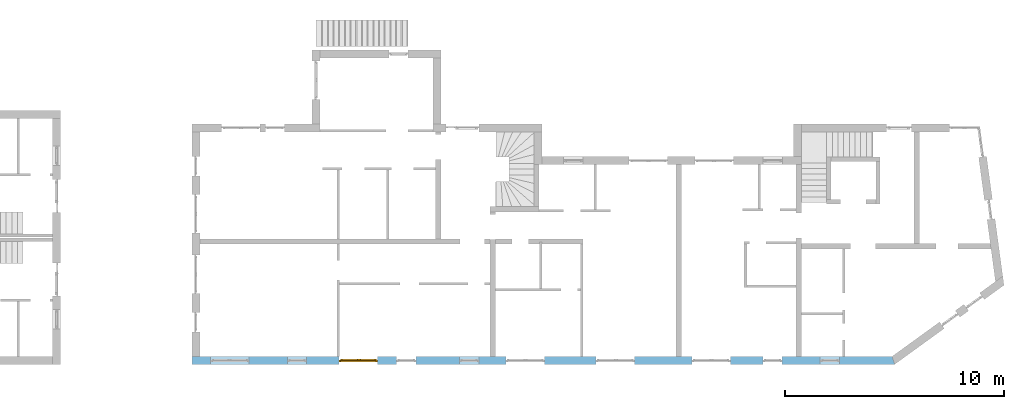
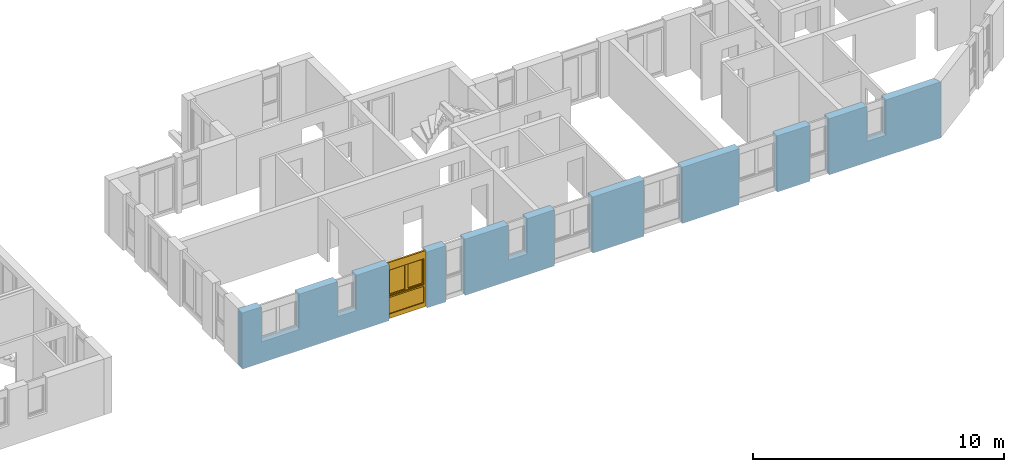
# One storey, part 29 of 41: 1 window, 10 openings, plus 1 element that does not belong to this part.
"""IFC2X3 building model written with IfcOpenShell, lengths in millimetres."""

from ifc_helpers import new_model, entity, si_unit, converted_unit, frame, frame_2d, origin, origin_with_axes, place, context, subcontext, project, spatial, polyline, rectangle, outline, extrude, faceted_brep, material, layer, layer_set, layer_usage, type_object, element, fill, save


model = new_model("IFC2X3")

# Units and contexts
model_context = context("Model", 3, precision=1e-05, world=origin())
body_context = subcontext(model_context, "Body", "Model", "MODEL_VIEW")
ifc_project = project(units=[si_unit("LENGTHUNIT", "METRE", prefix="MILLI"), converted_unit("PLANEANGLEUNIT", "DEGREE", entity("IfcPlaneAngleMeasure", 0.0174532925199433), si_unit("PLANEANGLEUNIT", "RADIAN"), dimensions=[0, 0, 0, 0, 0, 0, 0]), si_unit("AREAUNIT", "SQUARE_METRE"), si_unit("VOLUMEUNIT", "CUBIC_METRE")], contexts=[model_context])

# Building, storey
building_placement = place(None, origin())
building = spatial("IfcBuilding", under=ifc_project, at=building_placement, Name="Gebäude", CompositionType="ELEMENT")
storey_placement = place(building_placement, frame((0.0, 0.0, -200.0), z_axis=(0.0, 0.0, 1.0), x_axis=(1.0, 0.0, 0.0)))
storey = spatial("IfcBuildingStorey", under=building, at=storey_placement, Name="EG.- Grundriss", CompositionType="ELEMENT", Elevation=-200.0)

# Wall, openings, window
ifc_material_1 = material(Name="Poroton")
ifc_layer = layer(ifc_material_1, 365.0000000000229)
ifc_layer_set = layer_set([ifc_layer])
ifc_layer_usage = layer_usage(ifc_layer_set, "AXIS2", "POSITIVE", 0.0)
wall_placement = place(storey_placement, frame((148357.7928067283, 125274.8877324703, 0.0), z_axis=(0.0, 0.0, 1.0), x_axis=(1.0, -2.749268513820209e-11, 0.0)))
wall = element("IfcWallStandardCase", 1, at=wall_placement, inside=storey, material=ifc_layer_usage, Name="<Unnamed Element>", context=body_context, shape_type="SweptSolid", body=[
    extrude(outline(polyline([(0.0, 0.0), (32144.99999877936, 0.0), (32026.74038666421, 365.0000000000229), (-1.003483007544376e-08, 365.0), (0.0, 0.0)])), origin_with_axes(), (0.0, 0.0, 1.0), 2730.0),
])
opening_1_placement = place(wall_placement, frame((28740.29648749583, -1.103025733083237e-10, 1020.0), z_axis=(0.0, 1.0, 0.0), x_axis=(0.0, 0.0, 1.0)))
element("IfcOpeningElement", 2, at=opening_1_placement, cuts=wall, Name="Fensteröffnung", ObjectType="Opening", context=body_context, shape_type="SweptSolid", body=[
    extrude(rectangle(XDim=1710.0, YDim=885.0, at=frame_2d((855.0, 442.5), x_axis=(1.0, 0.0))), origin_with_axes(), (0.0, 0.0, 1.0), 365.0000000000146),
])
opening_2_placement = place(wall_placement, frame((26115.29648749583, -1.048456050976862e-10, 0.0), z_axis=(0.0, 1.0, 0.0), x_axis=(0.0, 0.0, 1.0)))
element("IfcOpeningElement", 3, at=opening_2_placement, cuts=wall, Name="Fensteröffnung", ObjectType="Opening", context=body_context, shape_type="SweptSolid", body=[
    extrude(rectangle(XDim=2730.0, YDim=885.0, at=frame_2d((1365.0, 442.5), x_axis=(1.0, 0.0))), origin_with_axes(), (0.0, 0.0, 1.0), 365.0000000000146),
])
opening_3_placement = place(wall_placement, frame((22865.29648749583, -7.937975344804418e-11, 0.0), z_axis=(0.0, 1.0, 0.0), x_axis=(0.0, 0.0, 1.0)))
element("IfcOpeningElement", 4, at=opening_3_placement, cuts=wall, Name="Fensteröffnung", ObjectType="Opening", context=body_context, shape_type="SweptSolid", body=[
    extrude(rectangle(XDim=2730.0, YDim=1760.0, at=frame_2d((1365.0, 880.0), x_axis=(1.0, 0.0))), origin_with_axes(), (0.0, 0.0, 1.0), 365.0000000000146),
])
opening_4_placement = place(wall_placement, frame((18490.51063065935, -4.984640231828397e-11, 0.0), z_axis=(0.0, 1.0, 0.0), x_axis=(0.0, 0.0, 1.0)))
element("IfcOpeningElement", 5, at=opening_4_placement, cuts=wall, Name="Fensteröffnung", ObjectType="Opening", context=body_context, shape_type="SweptSolid", body=[
    extrude(rectangle(XDim=2730.0, YDim=1760.0, at=frame_2d((1365.0, 880.0), x_axis=(1.0, 0.0))), origin_with_axes(), (0.0, 0.0, 1.0), 365.0000000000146),
])
opening_5_placement = place(wall_placement, frame((14365.26291871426, -7.302655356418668e-11, 0.0), z_axis=(0.0, 1.0, 0.0), x_axis=(0.0, 0.0, 1.0)))
element("IfcOpeningElement", 6, at=opening_5_placement, cuts=wall, Name="Fensteröffnung", ObjectType="Opening", context=body_context, shape_type="SweptSolid", body=[
    extrude(rectangle(XDim=2730.0, YDim=1760.0, at=frame_2d((1365.0, 880.0), x_axis=(1.0, 0.0))), origin_with_axes(), (0.0, 0.0, 1.0), 365.0000000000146),
])
opening_6_placement = place(wall_placement, frame((12240.0, -5.296897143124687e-11, 1020.0), z_axis=(0.0, 1.0, 0.0), x_axis=(0.0, 0.0, 1.0)))
element("IfcOpeningElement", 7, at=opening_6_placement, cuts=wall, Name="Fensteröffnung", ObjectType="Opening", context=body_context, shape_type="SweptSolid", body=[
    extrude(rectangle(XDim=1710.0, YDim=885.0, at=frame_2d((855.0, 442.5), x_axis=(1.0, 0.0))), origin_with_axes(), (0.0, 0.0, 1.0), 365.0000000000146),
])
opening_7_placement = place(wall_placement, frame((9365.0, -3.659806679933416e-11, 0.0), z_axis=(0.0, 1.0, 0.0), x_axis=(0.0, 0.0, 1.0)))
element("IfcOpeningElement", 8, at=opening_7_placement, cuts=wall, Name="Fensteröffnung", ObjectType="Opening", context=body_context, shape_type="SweptSolid", body=[
    extrude(rectangle(XDim=2730.0, YDim=885.0, at=frame_2d((1365.0, 442.5), x_axis=(1.0, 0.0))), origin_with_axes(), (0.0, 0.0, 1.0), 365.0000000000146),
])
opening_8_placement = place(wall_placement, frame((6740.0, -3.114109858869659e-11, 0.0), z_axis=(0.0, 1.0, 0.0), x_axis=(0.0, 0.0, 1.0)))
opening_8 = element("IfcOpeningElement", 9, at=opening_8_placement, cuts=wall, Name="Fensteröffnung", ObjectType="Opening", context=body_context, shape_type="SweptSolid", body=[
    extrude(rectangle(XDim=2730.0, YDim=1760.0, at=frame_2d((1365.0, 880.0), x_axis=(1.0, 0.0))), origin_with_axes(), (0.0, 0.0, 1.0), 365.0000000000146),
])
opening_9_placement = place(wall_placement, frame((4365.0, -7.494236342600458e-12, 1020.0), z_axis=(0.0, 1.0, 0.0), x_axis=(0.0, 0.0, 1.0)))
element("IfcOpeningElement", 10, at=opening_9_placement, cuts=wall, Name="Fensteröffnung", ObjectType="Opening", context=body_context, shape_type="SweptSolid", body=[
    extrude(rectangle(XDim=1710.0, YDim=885.0, at=frame_2d((855.0, 442.5), x_axis=(1.0, 0.0))), origin_with_axes(), (0.0, 0.0, 1.0), 365.0000000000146),
])
opening_10_placement = place(wall_placement, frame((865.0, -2.182787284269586e-13, 1020.0), z_axis=(0.0, 1.0, 0.0), x_axis=(0.0, 0.0, 1.0)))
element("IfcOpeningElement", 11, at=opening_10_placement, cuts=wall, Name="Fensteröffnung", ObjectType="Opening", context=body_context, shape_type="SweptSolid", body=[
    extrude(rectangle(XDim=1710.0, YDim=1760.0, at=frame_2d((854.9999999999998, 880.0), x_axis=(1.0, 0.0))), origin_with_axes(), (0.0, 0.0, 1.0), 365.0000000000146),
])
ifc_material_2 = material()
window_style = type_object("IfcWindowStyle", Name="Fenster", ConstructionType="NOTDEFINED", OperationType="USERDEFINED", ParameterTakesPrecedence=False, Sizeable=False)
window_placement = place(opening_8_placement, frame((0.0, 0.0, 0.0), z_axis=(1.0, 0.0, 0.0), x_axis=(0.0, 1.0, 0.0)))
window = element("IfcWindow", 12, at=window_placement, inside=storey, type_object=window_style, material=ifc_material_2, Name="Fenster", OverallHeight=2730.0, OverallWidth=1760.0, context=body_context, shape_type="Brep", body=[
    faceted_brep([(-1.221113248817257e-08, 199.999999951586, 2730.0), (-1.221113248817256e-08, 199.9999999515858, -2.449293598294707e-15), (69.99999998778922, 199.9999999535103, -2.449293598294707e-15), (69.99999998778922, 199.9999999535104, 2730.0), (-1.001171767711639e-08, 119.9999999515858, 2.449293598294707e-15), (-1.00117176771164e-08, 119.999999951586, 2730.0), (69.99999998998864, 119.9999999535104, 2730.0), (69.99999998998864, 119.9999999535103, 2.449293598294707e-15), (-1.221113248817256e-08, 199.9999999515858, -2.449293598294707e-15), (-1.221113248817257e-08, 199.999999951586, 2730.0), (-1.00117176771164e-08, 119.999999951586, 2730.0), (-1.001171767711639e-08, 119.9999999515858, 2.449293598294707e-15), (69.99999998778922, 199.9999999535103, -2.449293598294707e-15), (-1.221113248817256e-08, 199.9999999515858, -2.449293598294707e-15), (-1.001171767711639e-08, 119.9999999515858, 2.449293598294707e-15), (69.99999998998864, 119.9999999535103, 2.449293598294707e-15), (69.99999998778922, 199.9999999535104, 2730.0), (69.99999998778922, 199.9999999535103, -2.449293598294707e-15), (69.99999998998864, 119.9999999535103, 2.449293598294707e-15), (69.99999998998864, 119.9999999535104, 2730.0), (-1.221113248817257e-08, 199.999999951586, 2730.0), (69.99999998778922, 199.9999999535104, 2730.0), (69.99999998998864, 119.9999999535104, 2730.0), (-1.00117176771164e-08, 119.999999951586, 2730.0)], [[[0, 1, 2, 3]], [[4, 5, 6, 7]], [[8, 9, 10, 11]], [[12, 13, 14, 15]], [[16, 17, 18, 19]], [[20, 21, 22, 23]]], orient=[[False], [False], [False], [False], [False], [False]]),
    faceted_brep([(1689.999999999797, 199.9999999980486, 2730.0), (1689.999999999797, 199.9999999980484, -2.449293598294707e-15), (1759.999999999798, 199.9999999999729, -2.449293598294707e-15), (1759.999999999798, 199.9999999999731, 2730.0), (1690.000000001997, 119.9999999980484, 2.449293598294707e-15), (1690.000000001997, 119.9999999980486, 2730.0), (1760.000000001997, 119.9999999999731, 2730.0), (1760.000000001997, 119.9999999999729, 2.449293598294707e-15), (1689.999999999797, 199.9999999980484, -2.449293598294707e-15), (1689.999999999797, 199.9999999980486, 2730.0), (1690.000000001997, 119.9999999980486, 2730.0), (1690.000000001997, 119.9999999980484, 2.449293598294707e-15), (1759.999999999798, 199.9999999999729, -2.449293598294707e-15), (1689.999999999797, 199.9999999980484, -2.449293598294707e-15), (1690.000000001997, 119.9999999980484, 2.449293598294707e-15), (1760.000000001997, 119.9999999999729, 2.449293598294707e-15), (1759.999999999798, 199.9999999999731, 2730.0), (1759.999999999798, 199.9999999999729, -2.449293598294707e-15), (1760.000000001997, 119.9999999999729, 2.449293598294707e-15), (1760.000000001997, 119.9999999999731, 2730.0), (1689.999999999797, 199.9999999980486, 2730.0), (1759.999999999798, 199.9999999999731, 2730.0), (1760.000000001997, 119.9999999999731, 2730.0), (1690.000000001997, 119.9999999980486, 2730.0)], [[[0, 1, 2, 3]], [[4, 5, 6, 7]], [[8, 9, 10, 11]], [[12, 13, 14, 15]], [[16, 17, 18, 19]], [[20, 21, 22, 23]]], orient=[[False], [False], [False], [False], [False], [False]]),
    faceted_brep([(69.99999998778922, 199.9999999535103, 220.0), (69.99999998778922, 199.9999999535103, -2.449293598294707e-15), (1689.999999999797, 199.9999999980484, -2.449293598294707e-15), (1689.999999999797, 199.9999999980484, 220.0), (69.99999998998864, 119.9999999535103, 2.449293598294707e-15), (69.99999998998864, 119.9999999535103, 220.0), (1690.000000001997, 119.9999999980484, 220.0), (1690.000000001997, 119.9999999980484, 2.449293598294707e-15), (69.99999998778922, 199.9999999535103, -2.449293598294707e-15), (69.99999998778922, 199.9999999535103, 220.0), (69.99999998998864, 119.9999999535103, 220.0), (69.99999998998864, 119.9999999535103, 2.449293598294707e-15), (1689.999999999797, 199.9999999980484, -2.449293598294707e-15), (69.99999998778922, 199.9999999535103, -2.449293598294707e-15), (69.99999998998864, 119.9999999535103, 2.449293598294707e-15), (1690.000000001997, 119.9999999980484, 2.449293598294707e-15), (1689.999999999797, 199.9999999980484, 220.0), (1689.999999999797, 199.9999999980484, -2.449293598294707e-15), (1690.000000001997, 119.9999999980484, 2.449293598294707e-15), (1690.000000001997, 119.9999999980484, 220.0), (69.99999998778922, 199.9999999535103, 220.0), (1689.999999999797, 199.9999999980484, 220.0), (1690.000000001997, 119.9999999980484, 220.0), (69.99999998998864, 119.9999999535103, 220.0)], [[[0, 1, 2, 3]], [[4, 5, 6, 7]], [[8, 9, 10, 11]], [[12, 13, 14, 15]], [[16, 17, 18, 19]], [[20, 21, 22, 23]]], orient=[[False], [False], [False], [False], [False], [False]]),
    faceted_brep([(69.99999998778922, 199.9999999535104, 2730.0), (69.99999998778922, 199.9999999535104, 2360.0), (1689.999999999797, 199.9999999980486, 2360.0), (1689.999999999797, 199.9999999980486, 2730.0), (69.99999998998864, 119.9999999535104, 2360.0), (69.99999998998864, 119.9999999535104, 2730.0), (1690.000000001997, 119.9999999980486, 2730.0), (1690.000000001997, 119.9999999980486, 2360.0), (69.99999998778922, 199.9999999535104, 2360.0), (69.99999998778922, 199.9999999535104, 2730.0), (69.99999998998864, 119.9999999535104, 2730.0), (69.99999998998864, 119.9999999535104, 2360.0), (1689.999999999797, 199.9999999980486, 2360.0), (69.99999998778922, 199.9999999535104, 2360.0), (69.99999998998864, 119.9999999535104, 2360.0), (1690.000000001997, 119.9999999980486, 2360.0), (1689.999999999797, 199.9999999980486, 2730.0), (1689.999999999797, 199.9999999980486, 2360.0), (1690.000000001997, 119.9999999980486, 2360.0), (1690.000000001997, 119.9999999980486, 2730.0), (69.99999998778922, 199.9999999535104, 2730.0), (1689.999999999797, 199.9999999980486, 2730.0), (1690.000000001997, 119.9999999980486, 2730.0), (69.99999998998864, 119.9999999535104, 2730.0)], [[[0, 1, 2, 3]], [[4, 5, 6, 7]], [[8, 9, 10, 11]], [[12, 13, 14, 15]], [[16, 17, 18, 19]], [[20, 21, 22, 23]]], orient=[[False], [False], [False], [False], [False], [False]]),
    faceted_brep([(69.99999998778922, 199.9999999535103, 1090.0), (69.99999998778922, 199.9999999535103, 1020.0), (1689.999999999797, 199.9999999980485, 1020.0), (1689.999999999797, 199.9999999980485, 1090.0), (69.99999998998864, 119.9999999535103, 1020.0), (69.99999998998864, 119.9999999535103, 1090.0), (1690.000000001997, 119.9999999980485, 1090.0), (1690.000000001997, 119.9999999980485, 1020.0), (69.99999998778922, 199.9999999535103, 1020.0), (69.99999998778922, 199.9999999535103, 1090.0), (69.99999998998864, 119.9999999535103, 1090.0), (69.99999998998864, 119.9999999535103, 1020.0), (1689.999999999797, 199.9999999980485, 1020.0), (69.99999998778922, 199.9999999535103, 1020.0), (69.99999998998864, 119.9999999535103, 1020.0), (1690.000000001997, 119.9999999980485, 1020.0), (1689.999999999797, 199.9999999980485, 1090.0), (1689.999999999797, 199.9999999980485, 1020.0), (1690.000000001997, 119.9999999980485, 1020.0), (1690.000000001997, 119.9999999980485, 1090.0), (69.99999998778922, 199.9999999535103, 1090.0), (1689.999999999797, 199.9999999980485, 1090.0), (1690.000000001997, 119.9999999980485, 1090.0), (69.99999998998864, 119.9999999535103, 1090.0)], [[[0, 1, 2, 3]], [[4, 5, 6, 7]], [[8, 9, 10, 11]], [[12, 13, 14, 15]], [[16, 17, 18, 19]], [[20, 21, 22, 23]]], orient=[[False], [False], [False], [False], [False], [False]]),
    faceted_brep([(69.99999998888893, 159.9999999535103, 220.0), (1690.000000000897, 159.9999999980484, 220.0), (1690.000000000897, 159.9999999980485, 1020.0), (69.99999998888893, 159.9999999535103, 1020.0), (69.99999998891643, 158.9999999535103, 220.0), (69.99999998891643, 158.9999999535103, 1020.0), (1690.000000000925, 158.9999999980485, 1020.0), (1690.000000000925, 158.9999999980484, 220.0), (69.99999998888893, 159.9999999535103, 220.0), (69.99999998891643, 158.9999999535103, 220.0), (1690.000000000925, 158.9999999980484, 220.0), (1690.000000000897, 159.9999999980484, 220.0), (1690.000000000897, 159.9999999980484, 220.0), (1690.000000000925, 158.9999999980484, 220.0), (1690.000000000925, 158.9999999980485, 1020.0), (1690.000000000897, 159.9999999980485, 1020.0), (1690.000000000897, 159.9999999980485, 1020.0), (1690.000000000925, 158.9999999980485, 1020.0), (69.99999998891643, 158.9999999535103, 1020.0), (69.99999998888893, 159.9999999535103, 1020.0), (69.99999998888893, 159.9999999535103, 1020.0), (69.99999998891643, 158.9999999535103, 1020.0), (69.99999998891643, 158.9999999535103, 220.0), (69.99999998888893, 159.9999999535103, 220.0)], [[[0, 1, 2, 3]], [[4, 5, 6, 7]], [[8, 9, 10, 11]], [[12, 13, 14, 15]], [[16, 17, 18, 19]], [[20, 21, 22, 23]]], orient=[[False], [False], [False], [False], [False], [False]]),
    faceted_brep([(49.99999998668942, 239.9999999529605, 2380.0), (49.99999998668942, 239.9999999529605, 1070.0), (119.9999999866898, 239.999999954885, 1070.0), (119.9999999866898, 239.999999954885, 2380.0), (49.9999999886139, 169.9999999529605, 1070.0), (49.9999999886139, 169.9999999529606, 2380.0), (119.9999999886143, 169.999999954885, 2380.0), (119.9999999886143, 169.999999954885, 1070.0), (49.99999998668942, 239.9999999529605, 1070.0), (49.99999998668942, 239.9999999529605, 2380.0), (49.9999999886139, 169.9999999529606, 2380.0), (49.9999999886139, 169.9999999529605, 1070.0), (119.9999999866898, 239.999999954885, 1070.0), (49.99999998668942, 239.9999999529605, 1070.0), (49.9999999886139, 169.9999999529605, 1070.0), (119.9999999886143, 169.999999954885, 1070.0), (119.9999999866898, 239.999999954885, 2380.0), (119.9999999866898, 239.999999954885, 1070.0), (119.9999999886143, 169.999999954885, 1070.0), (119.9999999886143, 169.999999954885, 2380.0), (49.99999998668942, 239.9999999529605, 2380.0), (119.9999999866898, 239.999999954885, 2380.0), (119.9999999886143, 169.999999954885, 2380.0), (49.9999999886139, 169.9999999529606, 2380.0)], [[[0, 1, 2, 3]], [[4, 5, 6, 7]], [[8, 9, 10, 11]], [[12, 13, 14, 15]], [[16, 17, 18, 19]], [[20, 21, 22, 23]]], orient=[[False], [False], [False], [False], [False], [False]]),
    faceted_brep([(829.4999999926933, 239.9999999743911, 2380.0), (829.4999999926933, 239.999999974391, 1070.0), (899.4999999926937, 239.9999999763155, 1070.0), (899.4999999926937, 239.9999999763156, 2380.0), (829.4999999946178, 169.999999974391, 1070.0), (829.4999999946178, 169.9999999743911, 2380.0), (899.4999999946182, 169.9999999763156, 2380.0), (899.4999999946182, 169.9999999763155, 1070.0), (829.4999999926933, 239.999999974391, 1070.0), (829.4999999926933, 239.9999999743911, 2380.0), (829.4999999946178, 169.9999999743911, 2380.0), (829.4999999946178, 169.999999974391, 1070.0), (899.4999999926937, 239.9999999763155, 1070.0), (829.4999999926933, 239.999999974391, 1070.0), (829.4999999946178, 169.999999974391, 1070.0), (899.4999999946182, 169.9999999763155, 1070.0), (899.4999999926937, 239.9999999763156, 2380.0), (899.4999999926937, 239.9999999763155, 1070.0), (899.4999999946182, 169.9999999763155, 1070.0), (899.4999999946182, 169.9999999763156, 2380.0), (829.4999999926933, 239.9999999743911, 2380.0), (899.4999999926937, 239.9999999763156, 2380.0), (899.4999999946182, 169.9999999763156, 2380.0), (829.4999999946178, 169.9999999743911, 2380.0)], [[[0, 1, 2, 3]], [[4, 5, 6, 7]], [[8, 9, 10, 11]], [[12, 13, 14, 15]], [[16, 17, 18, 19]], [[20, 21, 22, 23]]], orient=[[False], [False], [False], [False], [False], [False]]),
    faceted_brep([(119.9999999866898, 239.999999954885, 1140.0), (119.9999999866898, 239.999999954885, 1070.0), (829.4999999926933, 239.999999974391, 1070.0), (829.4999999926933, 239.999999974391, 1140.0), (119.9999999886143, 169.999999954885, 1070.0), (119.9999999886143, 169.999999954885, 1140.0), (829.4999999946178, 169.999999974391, 1140.0), (829.4999999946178, 169.999999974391, 1070.0), (119.9999999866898, 239.999999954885, 1070.0), (119.9999999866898, 239.999999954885, 1140.0), (119.9999999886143, 169.999999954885, 1140.0), (119.9999999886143, 169.999999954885, 1070.0), (829.4999999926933, 239.999999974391, 1070.0), (119.9999999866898, 239.999999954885, 1070.0), (119.9999999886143, 169.999999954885, 1070.0), (829.4999999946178, 169.999999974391, 1070.0), (829.4999999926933, 239.999999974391, 1140.0), (829.4999999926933, 239.999999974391, 1070.0), (829.4999999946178, 169.999999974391, 1070.0), (829.4999999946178, 169.999999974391, 1140.0), (119.9999999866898, 239.999999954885, 1140.0), (829.4999999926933, 239.999999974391, 1140.0), (829.4999999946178, 169.999999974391, 1140.0), (119.9999999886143, 169.999999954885, 1140.0)], [[[0, 1, 2, 3]], [[4, 5, 6, 7]], [[8, 9, 10, 11]], [[12, 13, 14, 15]], [[16, 17, 18, 19]], [[20, 21, 22, 23]]], orient=[[False], [False], [False], [False], [False], [False]]),
    faceted_brep([(119.9999999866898, 239.999999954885, 2380.0), (119.9999999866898, 239.999999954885, 2310.0), (829.4999999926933, 239.9999999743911, 2310.0), (829.4999999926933, 239.9999999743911, 2380.0), (119.9999999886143, 169.999999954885, 2310.0), (119.9999999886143, 169.999999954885, 2380.0), (829.4999999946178, 169.9999999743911, 2380.0), (829.4999999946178, 169.9999999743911, 2310.0), (119.9999999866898, 239.999999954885, 2310.0), (119.9999999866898, 239.999999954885, 2380.0), (119.9999999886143, 169.999999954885, 2380.0), (119.9999999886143, 169.999999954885, 2310.0), (829.4999999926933, 239.9999999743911, 2310.0), (119.9999999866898, 239.999999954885, 2310.0), (119.9999999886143, 169.999999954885, 2310.0), (829.4999999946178, 169.9999999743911, 2310.0), (829.4999999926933, 239.9999999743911, 2380.0), (829.4999999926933, 239.9999999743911, 2310.0), (829.4999999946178, 169.9999999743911, 2310.0), (829.4999999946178, 169.9999999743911, 2380.0), (119.9999999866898, 239.999999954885, 2380.0), (829.4999999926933, 239.9999999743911, 2380.0), (829.4999999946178, 169.9999999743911, 2380.0), (119.9999999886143, 169.999999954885, 2380.0)], [[[0, 1, 2, 3]], [[4, 5, 6, 7]], [[8, 9, 10, 11]], [[12, 13, 14, 15]], [[16, 17, 18, 19]], [[20, 21, 22, 23]]], orient=[[False], [False], [False], [False], [False], [False]]),
    faceted_brep([(900.4999999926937, 239.9999999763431, 2380.0), (900.4999999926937, 239.999999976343, 1070.0), (970.4999999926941, 239.9999999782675, 1070.0), (970.4999999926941, 239.9999999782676, 2380.0), (900.4999999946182, 169.999999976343, 1070.0), (900.4999999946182, 169.9999999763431, 2380.0), (970.4999999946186, 169.9999999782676, 2380.0), (970.4999999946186, 169.9999999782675, 1070.0), (900.4999999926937, 239.999999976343, 1070.0), (900.4999999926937, 239.9999999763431, 2380.0), (900.4999999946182, 169.9999999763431, 2380.0), (900.4999999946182, 169.999999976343, 1070.0), (970.4999999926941, 239.9999999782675, 1070.0), (900.4999999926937, 239.999999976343, 1070.0), (900.4999999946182, 169.999999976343, 1070.0), (970.4999999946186, 169.9999999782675, 1070.0), (970.4999999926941, 239.9999999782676, 2380.0), (970.4999999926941, 239.9999999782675, 1070.0), (970.4999999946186, 169.9999999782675, 1070.0), (970.4999999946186, 169.9999999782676, 2380.0), (900.4999999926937, 239.9999999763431, 2380.0), (970.4999999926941, 239.9999999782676, 2380.0), (970.4999999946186, 169.9999999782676, 2380.0), (900.4999999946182, 169.9999999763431, 2380.0)], [[[0, 1, 2, 3]], [[4, 5, 6, 7]], [[8, 9, 10, 11]], [[12, 13, 14, 15]], [[16, 17, 18, 19]], [[20, 21, 22, 23]]], orient=[[False], [False], [False], [False], [False], [False]]),
    faceted_brep([(1639.999999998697, 239.9999999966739, 2380.0), (1639.999999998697, 239.9999999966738, 1070.0), (1709.999999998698, 239.9999999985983, 1070.0), (1709.999999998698, 239.9999999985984, 2380.0), (1640.000000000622, 169.9999999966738, 1070.0), (1640.000000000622, 169.9999999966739, 2380.0), (1710.000000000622, 169.9999999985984, 2380.0), (1710.000000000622, 169.9999999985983, 1070.0), (1639.999999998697, 239.9999999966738, 1070.0), (1639.999999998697, 239.9999999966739, 2380.0), (1640.000000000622, 169.9999999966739, 2380.0), (1640.000000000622, 169.9999999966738, 1070.0), (1709.999999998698, 239.9999999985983, 1070.0), (1639.999999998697, 239.9999999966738, 1070.0), (1640.000000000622, 169.9999999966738, 1070.0), (1710.000000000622, 169.9999999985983, 1070.0), (1709.999999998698, 239.9999999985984, 2380.0), (1709.999999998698, 239.9999999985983, 1070.0), (1710.000000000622, 169.9999999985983, 1070.0), (1710.000000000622, 169.9999999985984, 2380.0), (1639.999999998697, 239.9999999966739, 2380.0), (1709.999999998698, 239.9999999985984, 2380.0), (1710.000000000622, 169.9999999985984, 2380.0), (1640.000000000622, 169.9999999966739, 2380.0)], [[[0, 1, 2, 3]], [[4, 5, 6, 7]], [[8, 9, 10, 11]], [[12, 13, 14, 15]], [[16, 17, 18, 19]], [[20, 21, 22, 23]]], orient=[[False], [False], [False], [False], [False], [False]]),
    faceted_brep([(970.4999999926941, 239.9999999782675, 1140.0), (970.4999999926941, 239.9999999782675, 1070.0), (1639.999999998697, 239.9999999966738, 1070.0), (1639.999999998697, 239.9999999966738, 1140.0), (970.4999999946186, 169.9999999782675, 1070.0), (970.4999999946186, 169.9999999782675, 1140.0), (1640.000000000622, 169.9999999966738, 1140.0), (1640.000000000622, 169.9999999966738, 1070.0), (970.4999999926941, 239.9999999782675, 1070.0), (970.4999999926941, 239.9999999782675, 1140.0), (970.4999999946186, 169.9999999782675, 1140.0), (970.4999999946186, 169.9999999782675, 1070.0), (1639.999999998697, 239.9999999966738, 1070.0), (970.4999999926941, 239.9999999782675, 1070.0), (970.4999999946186, 169.9999999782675, 1070.0), (1640.000000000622, 169.9999999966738, 1070.0), (1639.999999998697, 239.9999999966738, 1140.0), (1639.999999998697, 239.9999999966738, 1070.0), (1640.000000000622, 169.9999999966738, 1070.0), (1640.000000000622, 169.9999999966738, 1140.0), (970.4999999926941, 239.9999999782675, 1140.0), (1639.999999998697, 239.9999999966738, 1140.0), (1640.000000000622, 169.9999999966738, 1140.0), (970.4999999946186, 169.9999999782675, 1140.0)], [[[0, 1, 2, 3]], [[4, 5, 6, 7]], [[8, 9, 10, 11]], [[12, 13, 14, 15]], [[16, 17, 18, 19]], [[20, 21, 22, 23]]], orient=[[False], [False], [False], [False], [False], [False]]),
    faceted_brep([(970.4999999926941, 239.9999999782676, 2380.0), (970.4999999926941, 239.9999999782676, 2310.0), (1639.999999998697, 239.9999999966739, 2310.0), (1639.999999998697, 239.9999999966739, 2380.0), (970.4999999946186, 169.9999999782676, 2310.0), (970.4999999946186, 169.9999999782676, 2380.0), (1640.000000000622, 169.9999999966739, 2380.0), (1640.000000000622, 169.9999999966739, 2310.0), (970.4999999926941, 239.9999999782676, 2310.0), (970.4999999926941, 239.9999999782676, 2380.0), (970.4999999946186, 169.9999999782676, 2380.0), (970.4999999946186, 169.9999999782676, 2310.0), (1639.999999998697, 239.9999999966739, 2310.0), (970.4999999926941, 239.9999999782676, 2310.0), (970.4999999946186, 169.9999999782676, 2310.0), (1640.000000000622, 169.9999999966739, 2310.0), (1639.999999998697, 239.9999999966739, 2380.0), (1639.999999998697, 239.9999999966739, 2310.0), (1640.000000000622, 169.9999999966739, 2310.0), (1640.000000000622, 169.9999999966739, 2380.0), (970.4999999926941, 239.9999999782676, 2380.0), (1639.999999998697, 239.9999999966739, 2380.0), (1640.000000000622, 169.9999999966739, 2380.0), (970.4999999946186, 169.9999999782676, 2380.0)], [[[0, 1, 2, 3]], [[4, 5, 6, 7]], [[8, 9, 10, 11]], [[12, 13, 14, 15]], [[16, 17, 18, 19]], [[20, 21, 22, 23]]], orient=[[False], [False], [False], [False], [False], [False]]),
    faceted_brep([(119.999999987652, 204.999999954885, 1140.0), (829.4999999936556, 204.9999999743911, 1140.0), (829.4999999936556, 204.9999999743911, 2310.0), (119.999999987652, 204.9999999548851, 2310.0), (119.9999999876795, 203.999999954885, 1140.0), (119.9999999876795, 203.9999999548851, 2310.0), (829.4999999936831, 203.9999999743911, 2310.0), (829.4999999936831, 203.9999999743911, 1140.0), (119.999999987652, 204.999999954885, 1140.0), (119.9999999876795, 203.999999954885, 1140.0), (829.4999999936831, 203.9999999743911, 1140.0), (829.4999999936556, 204.9999999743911, 1140.0), (829.4999999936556, 204.9999999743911, 1140.0), (829.4999999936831, 203.9999999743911, 1140.0), (829.4999999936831, 203.9999999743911, 2310.0), (829.4999999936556, 204.9999999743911, 2310.0), (829.4999999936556, 204.9999999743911, 2310.0), (829.4999999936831, 203.9999999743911, 2310.0), (119.9999999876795, 203.9999999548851, 2310.0), (119.999999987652, 204.9999999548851, 2310.0), (119.999999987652, 204.9999999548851, 2310.0), (119.9999999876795, 203.9999999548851, 2310.0), (119.9999999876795, 203.999999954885, 1140.0), (119.999999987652, 204.999999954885, 1140.0)], [[[0, 1, 2, 3]], [[4, 5, 6, 7]], [[8, 9, 10, 11]], [[12, 13, 14, 15]], [[16, 17, 18, 19]], [[20, 21, 22, 23]]], orient=[[False], [False], [False], [False], [False], [False]]),
    faceted_brep([(970.4999999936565, 204.9999999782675, 1140.0), (1639.99999999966, 204.9999999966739, 1140.0), (1639.99999999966, 204.9999999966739, 2310.0), (970.4999999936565, 204.9999999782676, 2310.0), (970.499999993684, 203.9999999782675, 1140.0), (970.499999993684, 203.9999999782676, 2310.0), (1639.999999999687, 203.9999999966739, 2310.0), (1639.999999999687, 203.9999999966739, 1140.0), (970.4999999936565, 204.9999999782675, 1140.0), (970.499999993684, 203.9999999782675, 1140.0), (1639.999999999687, 203.9999999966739, 1140.0), (1639.99999999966, 204.9999999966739, 1140.0), (1639.99999999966, 204.9999999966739, 1140.0), (1639.999999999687, 203.9999999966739, 1140.0), (1639.999999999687, 203.9999999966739, 2310.0), (1639.99999999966, 204.9999999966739, 2310.0), (1639.99999999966, 204.9999999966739, 2310.0), (1639.999999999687, 203.9999999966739, 2310.0), (970.499999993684, 203.9999999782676, 2310.0), (970.4999999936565, 204.9999999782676, 2310.0), (970.4999999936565, 204.9999999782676, 2310.0), (970.499999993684, 203.9999999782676, 2310.0), (970.499999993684, 203.9999999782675, 1140.0), (970.4999999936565, 204.9999999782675, 1140.0)], [[[0, 1, 2, 3]], [[4, 5, 6, 7]], [[8, 9, 10, 11]], [[12, 13, 14, 15]], [[16, 17, 18, 19]], [[20, 21, 22, 23]]], orient=[[False], [False], [False], [False], [False], [False]]),
])
fill(opening_8, window)

save(model, "model.ifc")
